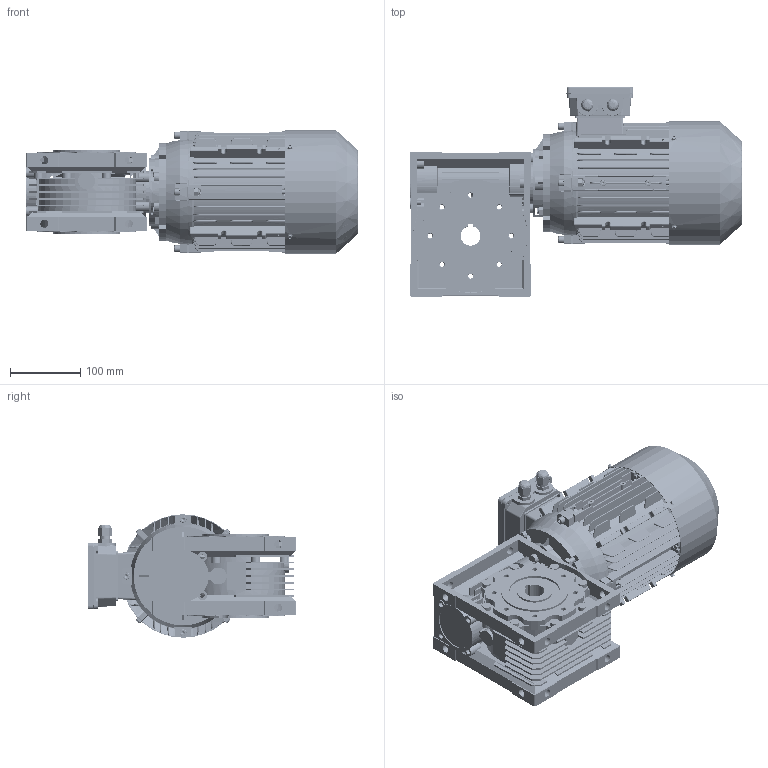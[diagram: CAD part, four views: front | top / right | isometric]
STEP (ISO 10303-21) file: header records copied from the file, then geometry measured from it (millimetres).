
FILE_DESCRIPTION (( 'STEP AP214' ), '1' );
FILE_NAME ('CMRV075_MX3-90S.STEP', '2018-07-05T13:18:17', ( '' ), ( '' ), 'SwSTEP 2.0', 'SolidWorks 2012', '' );
FILE_SCHEMA (( 'AUTOMOTIVE_DESIGN' ));
Length unit declared in the file: millimetre
Products named in the file (26): MX3-90S_B14; hexagon nuts grade c gb_GB_FASTENER_NUT_SNC1 M6-N; IE3 90S flange B14; hexagon socket head cap screws gb_GB_FASTENER_SCREWS_HSHCS M6X30-N; IE3 90S flange; IE3 90S  oil seal; circlips for shaft--type b gb_GB_CONNECTING_PIECE_RINGS_CSB 20; IE3 90L cable glandsM16; cross recessed pan head screws gb_GB_CROSS_SCREWS_TYPE1 M5X10-10  H type-N; cross recessed pan head screws gb_GB_CROSS_SCREWS_TYPE1 M5X20-20  H type-N; hexagon head bolts-full thread gb_GB_FASTENER_BOLT_STBAB A M4X16-N; IE3 90S connection board; hexagon flange head tapping screws gb_GB_SQUARE_AND_HEXAGON_TYPE137 ST3.5X9.5 F-N; cross recessed pan head tapping screws gb_GB_CROSS_SCREWS_TYPE128 ST4.2X9.5 H C-N; hex nuts, style 1-grades ab gb_GB_FASTENER_NUT_SNAB1 M6-N; spring lock washers--normal type gb_GB_FASTENER_WASHER_SW 6; IE3 90S terminal box cover; IE3 90S terminal box; plain parallel keys_GB_CONNECTING_PIECE_KEYS_CSK 8X40; IE3 90S fan cover; IE3 90S fan; deep groove ball bearings gb_Rolling bearings 6205 GB 276-94; IE3 90S rotor; IE3 90S casing; CMRV075_B09; CMRV075_MX3-90S
Assembly tree (62 placements, depth 3):
  CMRV075_MX3-90S
    CMRV075_B09
    MX3-90S_B14
      IE3 90S casing
      IE3 90S rotor
      deep groove ball bearings gb_Rolling bearings 6205 GB 276-94  x2
      IE3 90S fan
      IE3 90S fan cover
      plain parallel keys_GB_CONNECTING_PIECE_KEYS_CSK 8X40
      IE3 90S terminal box
      IE3 90S terminal box cover
      spring lock washers--normal type gb_GB_FASTENER_WASHER_SW 6  x8
      hex nuts, style 1-grades ab gb_GB_FASTENER_NUT_SNAB1 M6-N  x5
      cross recessed pan head tapping screws gb_GB_CROSS_SCREWS_TYPE128 ST4.2X9.5 H C-N  x4
      hexagon flange head tapping screws gb_GB_SQUARE_AND_HEXAGON_TYPE137 ST3.5X9.5 F-N  x4
      IE3 90S connection board
      hexagon head bolts-full thread gb_GB_FASTENER_BOLT_STBAB A M4X16-N  x6
      cross recessed pan head screws gb_GB_CROSS_SCREWS_TYPE1 M5X20-20  H type-N  x2
      cross recessed pan head screws gb_GB_CROSS_SCREWS_TYPE1 M5X10-10  H type-N  x4
      IE3 90L cable glandsM16  x2
      circlips for shaft--type b gb_GB_CONNECTING_PIECE_RINGS_CSB 20
      IE3 90S  oil seal
      IE3 90S flange
      hexagon socket head cap screws gb_GB_FASTENER_SCREWS_HSHCS M6X30-N  x8
      IE3 90S flange B14
      hexagon nuts grade c gb_GB_FASTENER_NUT_SNC1 M6-N  x3
Bounding box: 471 x 296.5 x 175.1 mm (x, y, z)
Volume: 1587955.6 mm3; surface area: 1191220.2 mm2
Topology: 60 solids, 66 shells, 6123 faces, 16533 edges, 10463 vertices
Faces by surface type: plane 2425, cylinder 1835, bspline 1305, cone 433, sphere 81, torus 44
Entity records: 224575 total; most frequent: CARTESIAN_POINT 90039, ORIENTED_EDGE 27686, DIRECTION 22375, EDGE_CURVE 14182, VERTEX_POINT 9062, AXIS2_PLACEMENT_3D 7772, LINE 6831, VECTOR 6831
